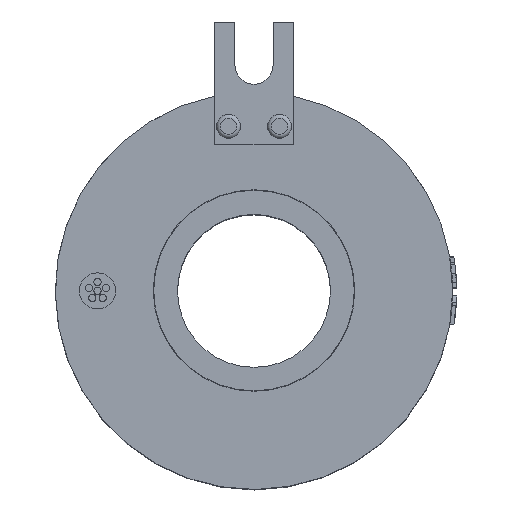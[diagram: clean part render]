
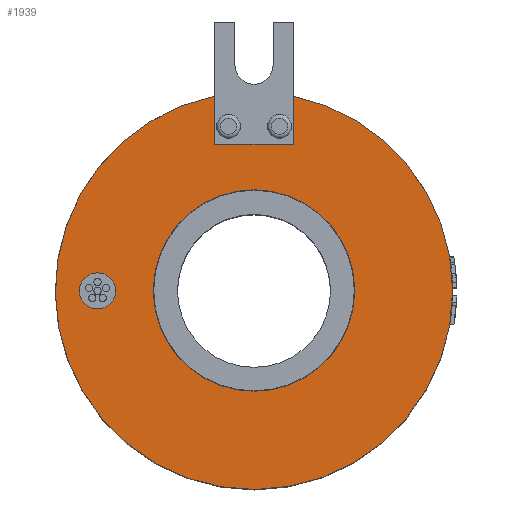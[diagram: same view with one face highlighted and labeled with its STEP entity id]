
A CAD part, top view. The second image highlights one B-rep face of the part: STEP entity #1939.
In plain terms, the highlighted planar face has unit normal (0, 0, 1).
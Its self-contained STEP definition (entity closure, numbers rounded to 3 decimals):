
#357=PLANE('',#6955);
#1077=LINE('',#15145,#1621);
#1078=LINE('',#15147,#1622);
#1079=LINE('',#15149,#1623);
#1621=VECTOR('',#7973,1.);
#1622=VECTOR('',#7974,1.);
#1623=VECTOR('',#7975,1.);
#1939=ADVANCED_FACE('',(#2259,#2260,#2261),#357,.T.);
#2152=CIRCLE('',#6937,49.5);
#2162=CIRCLE('',#6953,4.5);
#2163=CIRCLE('',#6954,25.1);
#2259=FACE_BOUND('',#2670,.T.);
#2260=FACE_BOUND('',#2671,.T.);
#2261=FACE_BOUND('',#2672,.T.);
#2670=EDGE_LOOP('',(#4150));
#2671=EDGE_LOOP('',(#4151));
#2672=EDGE_LOOP('',(#4152,#4153,#4154,#4155));
#4150=ORIENTED_EDGE('',*,*,#6093,.T.);
#4151=ORIENTED_EDGE('',*,*,#6094,.F.);
#4152=ORIENTED_EDGE('',*,*,#6095,.F.);
#4153=ORIENTED_EDGE('',*,*,#6074,.T.);
#4154=ORIENTED_EDGE('',*,*,#6096,.F.);
#4155=ORIENTED_EDGE('',*,*,#6097,.F.);
#4681=VERTEX_POINT('',#8750);
#4682=VERTEX_POINT('',#8751);
#5212=VERTEX_POINT('',#15142);
#5213=VERTEX_POINT('',#15144);
#5214=VERTEX_POINT('',#15146);
#5215=VERTEX_POINT('',#15148);
#6074=EDGE_CURVE('',#4682,#4681,#2152,.T.);
#6093=EDGE_CURVE('',#5212,#5212,#2162,.T.);
#6094=EDGE_CURVE('',#5213,#5213,#2163,.T.);
#6095=EDGE_CURVE('',#4682,#5214,#1077,.T.);
#6096=EDGE_CURVE('',#5215,#4681,#1078,.T.);
#6097=EDGE_CURVE('',#5214,#5215,#1079,.T.);
#6937=AXIS2_PLACEMENT_3D('',#15098,#7928,#7929);
#6953=AXIS2_PLACEMENT_3D('',#15141,#7969,#7970);
#6954=AXIS2_PLACEMENT_3D('',#15143,#7971,#7972);
#6955=AXIS2_PLACEMENT_3D('',#15150,#7976,#7977);
#7928=DIRECTION('',(0.,0.,1.));
#7929=DIRECTION('',(1.,0.,0.));
#7969=DIRECTION('',(0.,0.,-1.));
#7970=DIRECTION('',(1.,0.,0.));
#7971=DIRECTION('',(0.,0.,1.));
#7972=DIRECTION('',(1.,0.,0.));
#7973=DIRECTION('',(0.,-1.,0.));
#7974=DIRECTION('',(0.,1.,0.));
#7975=DIRECTION('',(1.,0.,0.));
#7976=DIRECTION('',(0.,0.,1.));
#7977=DIRECTION('',(1.,0.,0.));
#8750=CARTESIAN_POINT('',(9.75,48.53,75.5));
#8751=CARTESIAN_POINT('',(-9.75,48.53,75.5));
#15098=CARTESIAN_POINT('',(0.,0.,75.5));
#15141=CARTESIAN_POINT('',(-39.,0.,75.5));
#15142=CARTESIAN_POINT('',(-34.5,0.,75.5));
#15143=CARTESIAN_POINT('',(0.,0.09,75.5));
#15144=CARTESIAN_POINT('',(25.1,0.09,75.5));
#15145=CARTESIAN_POINT('',(-9.75,67.,75.5));
#15146=CARTESIAN_POINT('',(-9.75,36.5,75.5));
#15147=CARTESIAN_POINT('',(9.75,36.5,75.5));
#15148=CARTESIAN_POINT('',(9.75,36.5,75.5));
#15149=CARTESIAN_POINT('',(-9.75,36.5,75.5));
#15150=CARTESIAN_POINT('',(0.,0.,75.5));
